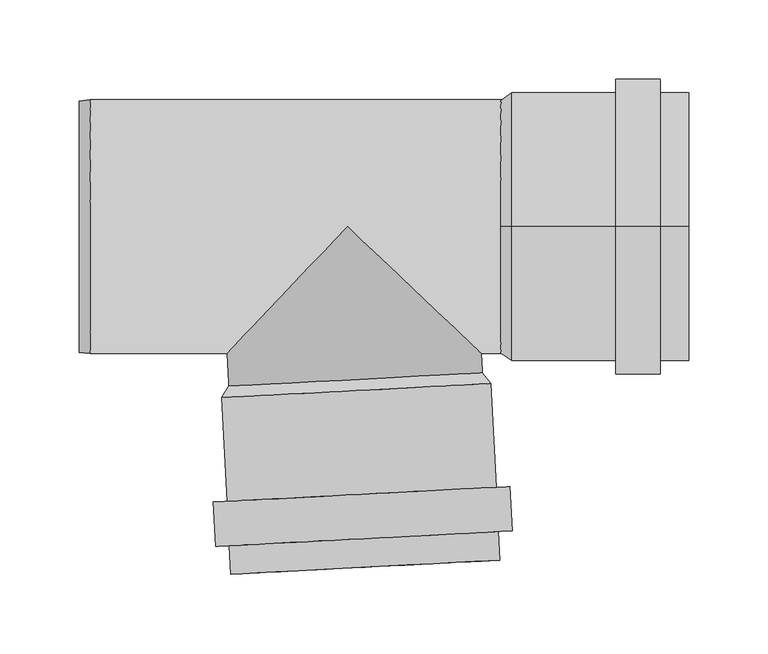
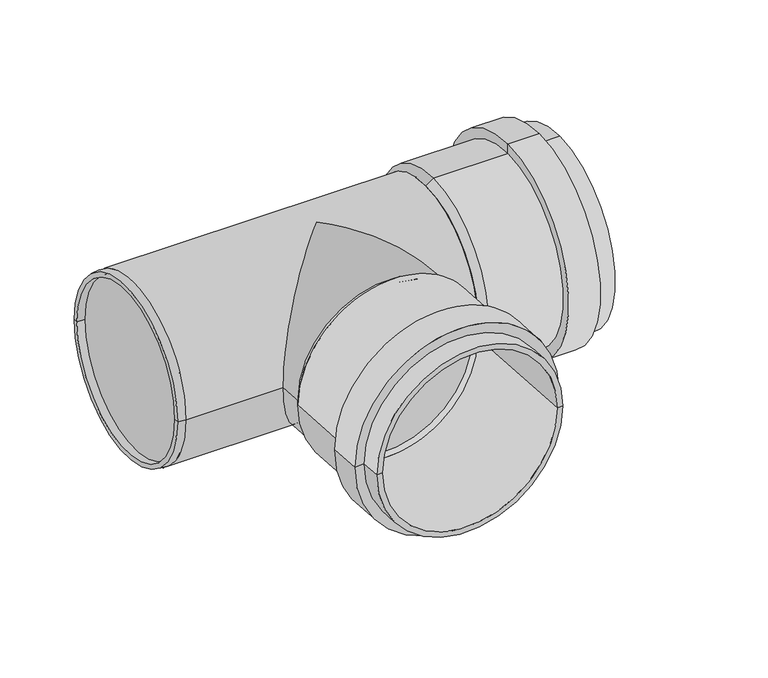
"""IFC4 building model written with IfcOpenShell, lengths in millimetres: pipe fitting geometry, OSMA_KG2000_PPKGEA : Odbočka 87°."""

from ifc_helpers import new_model, si_unit, frame, origin, place, context, project, spatial, polyline, circle_curve, ellipse_curve, source, transform, mapped, element, save
from ifc_brep_helpers import plane_surface, cylinder_surface, revolved_surface, advanced_brep


def pipe_fitting_8f992bbc(model_context):
    return source(origin(), model_context, "Body", "AdvancedBrep", [
        advanced_brep(
        [(85.3071343, -99.1712803, 1.6299565), (-74.4735913, -107.5450333, 1.6299565), (-68.6381322, -218.8922265, 1.6299565), (91.1425934, -210.5184735, 1.6299565), (93.6284241, -164.3250687, 1.6299565), (-75.9388709, -173.2117141, 1.6299565), (-79.366876, -107.8014795, 1.6299565), (90.200419, -98.9148342, 1.6299565), (102.2166381, -163.8749795, 1.6299565), (-84.5270849, -173.6618033, 1.6299565), (103.6820449, -191.8366064, 1.6299565), (-83.0616781, -201.6234303, 1.6299565), (95.0938309, -192.2866957, 1.6299565), (-74.4734641, -201.173341, 1.6299565), (96.0358781, -210.2620273, 1.6299565), (-73.5314169, -219.1486727, 1.6299565), (80.0474978, -92.4373198, 1.6299565), (-69.9466583, -100.2981804, 1.6299565), (84.9407826, -92.1808736, 1.6299565), (-74.839943, -100.5546266, 1.6299565)],
        [
            (0, 1, circle_curve(frame((5.4167715, -103.3581568, 1.6299565), z_axis=(-0.052335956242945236, 0.9986295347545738, 0.0), x_axis=(-0.9986295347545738, -0.052335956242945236, 0.0)), 80.0)),
            (1, 2),
            (2, 3, circle_curve(frame((11.2522306, -214.70535, 1.6299565), z_axis=(0.052335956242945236, -0.9986295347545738, 0.0), x_axis=(-0.9986295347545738, -0.052335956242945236, 0.0)), 80.0)),
            (3, 0),
            (1, 0, circle_curve(frame((5.4167715, -103.3581568, 1.6299565), z_axis=(-0.052335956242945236, 0.9986295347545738, 0.0), x_axis=(-0.9986295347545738, -0.052335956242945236, 0.0)), 80.0)),
            (3, 2, circle_curve(frame((11.2522306, -214.70535, 1.6299565), z_axis=(0.052335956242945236, -0.9986295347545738, 0.0), x_axis=(-0.9986295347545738, -0.052335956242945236, 0.0)), 80.0)),
            (4, 5, circle_curve(frame((8.8447766, -168.7683914, 1.6299565), z_axis=(-0.052335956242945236, 0.9986295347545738, 0.0), x_axis=(-0.9986295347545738, -0.052335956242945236, 0.0)), 84.9)),
            (5, 6),
            (6, 7, circle_curve(frame((5.4167715, -103.3581568, 1.6299565), z_axis=(0.052335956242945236, -0.9986295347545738, 0.0), x_axis=(-0.9986295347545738, -0.052335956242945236, 0.0)), 84.9)),
            (7, 4),
            (5, 4, circle_curve(frame((8.8447766, -168.7683914, 1.6299565), z_axis=(-0.052335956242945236, 0.9986295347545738, 0.0), x_axis=(-0.9986295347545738, -0.052335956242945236, 0.0)), 84.9)),
            (7, 6, circle_curve(frame((5.4167715, -103.3581568, 1.6299565), z_axis=(0.052335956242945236, -0.9986295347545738, 0.0), x_axis=(-0.9986295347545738, -0.052335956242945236, 0.0)), 84.9)),
            (8, 9, circle_curve(frame((8.8447766, -168.7683914, 1.6299565), z_axis=(-0.052335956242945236, 0.9986295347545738, 0.0), x_axis=(-0.9986295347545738, -0.052335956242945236, 0.0)), 93.5)),
            (9, 5),
            (4, 8),
            (9, 8, circle_curve(frame((8.8447766, -168.7683914, 1.6299565), z_axis=(-0.052335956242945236, 0.9986295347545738, 0.0), x_axis=(-0.9986295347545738, -0.052335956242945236, 0.0)), 93.5)),
            (10, 11, circle_curve(frame((10.3101834, -196.7300183, 1.6299565), z_axis=(-0.052335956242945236, 0.9986295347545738, 0.0), x_axis=(-0.9986295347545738, -0.052335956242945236, 0.0)), 93.5)),
            (11, 9),
            (8, 10),
            (11, 10, circle_curve(frame((10.3101834, -196.7300183, 1.6299565), z_axis=(-0.052335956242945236, 0.9986295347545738, 0.0), x_axis=(-0.9986295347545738, -0.052335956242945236, 0.0)), 93.5)),
            (12, 13, circle_curve(frame((10.3101834, -196.7300183, 1.6299565), z_axis=(-0.052335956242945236, 0.9986295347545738, 0.0), x_axis=(-0.9986295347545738, -0.052335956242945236, 0.0)), 84.9)),
            (13, 11),
            (10, 12),
            (13, 12, circle_curve(frame((10.3101834, -196.7300183, 1.6299565), z_axis=(-0.052335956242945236, 0.9986295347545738, 0.0), x_axis=(-0.9986295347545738, -0.052335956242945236, 0.0)), 84.9)),
            (14, 15, circle_curve(frame((11.2522306, -214.70535, 1.6299565), z_axis=(-0.052335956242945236, 0.9986295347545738, 0.0), x_axis=(-0.9986295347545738, -0.052335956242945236, 0.0)), 84.9)),
            (15, 13),
            (12, 14),
            (15, 14, circle_curve(frame((11.2522306, -214.70535, 1.6299565), z_axis=(-0.052335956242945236, 0.9986295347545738, 0.0), x_axis=(-0.9986295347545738, -0.052335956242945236, 0.0)), 84.9)),
            (2, 15),
            (14, 3),
            (16, 17, circle_curve(frame((5.0504198, -96.3677501, 1.6299565), z_axis=(-0.052335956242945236, 0.9986295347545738, 0.0), x_axis=(-0.9986295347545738, -0.052335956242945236, 0.0)), 75.1)),
            (17, 1),
            (0, 16),
            (17, 16, circle_curve(frame((5.0504198, -96.3677501, 1.6299565), z_axis=(-0.052335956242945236, 0.9986295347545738, 0.0), x_axis=(-0.9986295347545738, -0.052335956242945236, 0.0)), 75.1)),
            (18, 19, circle_curve(frame((5.0504198, -96.3677501, 1.6299565), z_axis=(-0.052335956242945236, 0.9986295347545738, 0.0), x_axis=(-0.9986295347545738, -0.052335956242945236, 0.0)), 80.0)),
            (19, 17),
            (16, 18),
            (19, 18, circle_curve(frame((5.0504198, -96.3677501, 1.6299565), z_axis=(-0.052335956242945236, 0.9986295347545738, 0.0), x_axis=(-0.9986295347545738, -0.052335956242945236, 0.0)), 80.0)),
            (6, 19),
            (18, 7),
        ],
        [
            revolved_surface(polyline([(-68.63813213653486, -218.89222649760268, 1.6299565), (-74.47359126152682, -107.54503329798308, 1.6299565)]), (150.9617166, -2880.5211481, 1.6299565), (0.052335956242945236, -0.9986295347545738, 0.0)),
            cylinder_surface(frame((150.9617166, -2880.5211481, 1.6299565), z_axis=(0.052335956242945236, -0.9986295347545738, 0.0), x_axis=(-0.9986295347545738, -0.052335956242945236, 0.0)), 84.9),
            plane_surface(frame((8.8447766, -168.7683914, 1.6299565), z_axis=(-0.052335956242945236, 0.9986295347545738, 0.0), x_axis=(-0.9986295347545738, -0.052335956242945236, 0.0))),
            cylinder_surface(frame((150.9617166, -2880.5211481, 1.6299565), z_axis=(0.052335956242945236, -0.9986295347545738, 0.0), x_axis=(-0.9986295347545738, -0.052335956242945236, 0.0)), 93.5),
            plane_surface(frame((10.3101834, -196.7300183, 1.6299565), z_axis=(0.052335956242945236, -0.9986295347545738, 0.0), x_axis=(-0.9986295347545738, -0.052335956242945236, 0.0))),
            plane_surface(frame((11.2522306, -214.70535, 1.6299565), z_axis=(0.052335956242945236, -0.9986295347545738, 0.0), x_axis=(-0.9986295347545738, -0.052335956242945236, 0.0))),
            revolved_surface(polyline([(-74.4735913, -107.5450333, 1.6299565), (-69.9466583, -100.2981804, 1.6299565)]), (150.9617166, -2880.5211481, 1.6299565), (0.052335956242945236, -0.9986295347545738, 0.0)),
            plane_surface(frame((5.0504198, -96.3677501, 1.6299565), z_axis=(-0.052335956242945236, 0.9986295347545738, 0.0), x_axis=(-0.9986295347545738, -0.052335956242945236, 0.0))),
            revolved_surface(polyline([(-74.839943, -100.5546266, 1.6299565), (-79.366876, -107.8014795, 1.6299565)]), (150.9617166, -2880.5211481, 1.6299565), (0.052335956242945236, -0.9986295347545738, 0.0)),
        ],
        [
            (0, [[1, 2, 3, 4]]),
            (0, [[5, -4, 6, -2]]),
            (1, [[7, 8, 9, 10]]),
            (1, [[11, -10, 12, -8]]),
            (2, [[13, 14, -7, 15]]),
            (2, [[16, -15, -11, -14]]),
            (3, [[17, 18, -13, 19]]),
            (3, [[20, -19, -16, -18]]),
            (4, [[21, 22, -17, 23]]),
            (4, [[24, -23, -20, -22]]),
            (1, [[25, 26, -21, 27]]),
            (1, [[28, -27, -24, -26]]),
            (5, [[-3, 29, -25, 30]]),
            (5, [[-6, -30, -28, -29]]),
            (6, [[31, 32, -1, 33]]),
            (6, [[34, -33, -5, -32]]),
            (7, [[35, 36, -31, 37]]),
            (7, [[38, -37, -34, -36]]),
            (8, [[-9, 39, -35, 40]]),
            (8, [[-12, -40, -38, -39]]),
        ],
    ),
        advanced_brep(
        [(103.5, 0.0, -80.0), (103.5, 0.0, 80.0), (215.0, 0.0, 80.0), (215.0, 0.0, -80.0), (169.0, 0.0, -84.9), (169.0, 0.0, 84.9), (103.5, 0.0, 84.9), (103.5, 0.0, -84.9), (169.0, 0.0, -93.5), (169.0, 0.0, 93.5), (197.0, 0.0, -93.5), (197.0, 0.0, 93.5), (197.0, 0.0, -84.9), (197.0, 0.0, 84.9), (215.0, 0.0, -84.9), (215.0, 0.0, 84.9), (96.5, 0.0, -75.1), (96.5, 0.0, 75.1), (96.5, 0.0, -80.0), (96.5, 0.0, 80.0)],
        [
            (0, 1, circle_curve(frame((103.5, 0.0, 0.0), z_axis=(-1.0, 0.0, 0.0), x_axis=(0.0, 0.0, 1.0)), 80.0)),
            (1, 2),
            (2, 3, circle_curve(frame((215.0, 0.0, 0.0), z_axis=(1.0, 0.0, 0.0), x_axis=(0.0, 0.0, 1.0)), 80.0)),
            (3, 0),
            (1, 0, circle_curve(frame((103.5, 0.0, 0.0), z_axis=(-1.0, 0.0, 0.0), x_axis=(0.0, 0.0, 1.0)), 80.0)),
            (3, 2, circle_curve(frame((215.0, 0.0, 0.0), z_axis=(1.0, 0.0, 0.0), x_axis=(0.0, 0.0, 1.0)), 80.0)),
            (4, 5, circle_curve(frame((169.0, 0.0, 0.0), z_axis=(-1.0, 0.0, 0.0), x_axis=(0.0, 0.0, 1.0)), 84.9)),
            (5, 6),
            (6, 7, circle_curve(frame((103.5, 0.0, 0.0), z_axis=(1.0, 0.0, 0.0), x_axis=(0.0, 0.0, 1.0)), 84.9)),
            (7, 4),
            (5, 4, circle_curve(frame((169.0, 0.0, 0.0), z_axis=(-1.0, 0.0, 0.0), x_axis=(0.0, 0.0, 1.0)), 84.9)),
            (7, 6, circle_curve(frame((103.5, 0.0, 0.0), z_axis=(1.0, 0.0, 0.0), x_axis=(0.0, 0.0, 1.0)), 84.9)),
            (8, 9, circle_curve(frame((169.0, 0.0, 0.0), z_axis=(-1.0, 0.0, 0.0), x_axis=(0.0, 0.0, 1.0)), 93.5)),
            (9, 5),
            (4, 8),
            (9, 8, circle_curve(frame((169.0, 0.0, 0.0), z_axis=(-1.0, 0.0, 0.0), x_axis=(0.0, 0.0, 1.0)), 93.5)),
            (10, 11, circle_curve(frame((197.0, 0.0, 0.0), z_axis=(-1.0, 0.0, 0.0), x_axis=(0.0, 0.0, 1.0)), 93.5)),
            (11, 9),
            (8, 10),
            (11, 10, circle_curve(frame((197.0, 0.0, 0.0), z_axis=(-1.0, 0.0, 0.0), x_axis=(0.0, 0.0, 1.0)), 93.5)),
            (12, 13, circle_curve(frame((197.0, 0.0, 0.0), z_axis=(-1.0, 0.0, 0.0), x_axis=(0.0, 0.0, 1.0)), 84.9)),
            (13, 11),
            (10, 12),
            (13, 12, circle_curve(frame((197.0, 0.0, 0.0), z_axis=(-1.0, 0.0, 0.0), x_axis=(0.0, 0.0, 1.0)), 84.9)),
            (14, 15, circle_curve(frame((215.0, 0.0, 0.0), z_axis=(-1.0, 0.0, 0.0), x_axis=(0.0, 0.0, 1.0)), 84.9)),
            (15, 13),
            (12, 14),
            (15, 14, circle_curve(frame((215.0, 0.0, 0.0), z_axis=(-1.0, 0.0, 0.0), x_axis=(0.0, 0.0, 1.0)), 84.9)),
            (2, 15),
            (14, 3),
            (16, 17, circle_curve(frame((96.5, 0.0, 0.0), z_axis=(-1.0, 0.0, 0.0), x_axis=(0.0, 0.0, 1.0)), 75.1)),
            (17, 1),
            (0, 16),
            (17, 16, circle_curve(frame((96.5, 0.0, 0.0), z_axis=(-1.0, 0.0, 0.0), x_axis=(0.0, 0.0, 1.0)), 75.1)),
            (18, 19, circle_curve(frame((96.5, 0.0, 0.0), z_axis=(-1.0, 0.0, 0.0), x_axis=(0.0, 0.0, 1.0)), 80.0)),
            (19, 17),
            (16, 18),
            (19, 18, circle_curve(frame((96.5, 0.0, 0.0), z_axis=(-1.0, 0.0, 0.0), x_axis=(0.0, 0.0, 1.0)), 80.0)),
            (6, 19),
            (18, 7),
        ],
        [
            revolved_surface(polyline([(215.0, 0.0, 80.0), (103.5, 0.0, 80.0)]), (2884.4742198, 0.0, 0.0), (1.0, 0.0, 0.0)),
            cylinder_surface(frame((2884.4742198, 0.0, 0.0), z_axis=(1.0, 0.0, 0.0), x_axis=(0.0, 0.0, 1.0)), 84.9),
            plane_surface(frame((169.0, 0.0, 0.0), z_axis=(-1.0, 0.0, 0.0), x_axis=(0.0, 0.0, 1.0))),
            cylinder_surface(frame((2884.4742198, 0.0, 0.0), z_axis=(1.0, 0.0, 0.0), x_axis=(0.0, 0.0, 1.0)), 93.5),
            plane_surface(frame((197.0, 0.0, 0.0), z_axis=(1.0, 0.0, 0.0), x_axis=(0.0, 0.0, 1.0))),
            plane_surface(frame((215.0, 0.0, 0.0), z_axis=(1.0, 0.0, 0.0), x_axis=(0.0, 0.0, 1.0))),
            revolved_surface(polyline([(103.5, 0.0, 80.0), (96.5, 0.0, 75.1)]), (2884.4742198, 0.0, 0.0), (1.0, 0.0, 0.0)),
            plane_surface(frame((96.5, 0.0, 0.0), z_axis=(-1.0, 0.0, 0.0), x_axis=(0.0, 0.0, 1.0))),
            revolved_surface(polyline([(96.5, 0.0, 80.0), (103.5, 0.0, 84.9)]), (2884.4742198, 0.0, 0.0), (1.0, 0.0, 0.0)),
        ],
        [
            (0, [[1, 2, 3, 4]]),
            (0, [[5, -4, 6, -2]]),
            (1, [[7, 8, 9, 10]]),
            (1, [[11, -10, 12, -8]]),
            (2, [[13, 14, -7, 15]]),
            (2, [[16, -15, -11, -14]]),
            (3, [[17, 18, -13, 19]]),
            (3, [[20, -19, -16, -18]]),
            (4, [[21, 22, -17, 23]]),
            (4, [[24, -23, -20, -22]]),
            (1, [[25, 26, -21, 27]]),
            (1, [[28, -27, -24, -26]]),
            (5, [[-3, 29, -25, 30]]),
            (5, [[-6, -30, -28, -29]]),
            (6, [[31, 32, -1, 33]]),
            (6, [[34, -33, -5, -32]]),
            (7, [[35, 36, -31, 37]]),
            (7, [[38, -37, -34, -36]]),
            (8, [[-9, 39, -35, 40]]),
            (8, [[-12, -40, -38, -39]]),
        ],
    ),
        advanced_brep(
        [(-74.6567672, -104.04983, 0.0), (85.1239584, -95.676077, 0.0), (84.30241, -80.0, 0.0), (0.0, 0.0, 80.0), (-75.9171653, -80.0, 0.0), (0.0, 0.0, -80.0), (-169.0, -75.1, 0.0), (-169.0, 75.1, 0.0), (-169.0, 79.209508, 0.0), (-169.0, -79.209508, 0.0), (-162.0, -75.1, 0.0), (-162.0, 75.1, 0.0), (-162.0, 80.0, 0.0), (-162.0, -80.0, 0.0), (100.0, 80.0, 0.0), (100.0, -80.0, 0.0)],
        [
            (0, 1, circle_curve(frame((5.2335956, -99.8629535, 0.0), z_axis=(0.052335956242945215, -0.9986295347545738, 0.0), x_axis=(0.9986295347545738, 0.052335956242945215, 0.0)), 80.0)),
            (1, 0, circle_curve(frame((5.2335956, -99.8629535, 0.0), z_axis=(0.052335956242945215, -0.9986295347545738, 0.0), x_axis=(0.9986295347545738, 0.052335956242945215, 0.0)), 80.0)),
            (1, 2),
            (2, 3, ellipse_curve(frame((0.0, 0.0, 0.0), z_axis=(-0.6883545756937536, -0.7253743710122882, 0.0), x_axis=(-0.7253743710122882, 0.6883545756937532, 0.0)), 116.2191737, 80.0)),
            (3, 4, ellipse_curve(frame((0.0, 0.0, 0.0), z_axis=(0.7253743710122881, -0.6883545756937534, 0.0), x_axis=(0.6883545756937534, 0.7253743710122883, 0.0)), 110.2878778, 80.0)),
            (4, 0),
            (4, 5, ellipse_curve(frame((0.0, 0.0, 0.0), z_axis=(0.7253743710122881, -0.6883545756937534, 0.0), x_axis=(0.6883545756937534, 0.7253743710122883, 0.0)), 110.2878778, 80.0)),
            (5, 2, ellipse_curve(frame((0.0, 0.0, 0.0), z_axis=(-0.6883545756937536, -0.7253743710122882, 0.0), x_axis=(-0.7253743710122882, 0.6883545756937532, 0.0)), 116.2191737, 80.0)),
            (6, 7, circle_curve(frame((-169.0, 0.0, 0.0), z_axis=(1.0, 0.0, 0.0), x_axis=(0.0, 1.0, 0.0)), 75.1)),
            (7, 8),
            (8, 9, circle_curve(frame((-169.0, 0.0, 0.0), z_axis=(-1.0, 0.0, 0.0), x_axis=(0.0, 1.0, 0.0)), 79.209508)),
            (9, 6),
            (7, 6, circle_curve(frame((-169.0, 0.0, 0.0), z_axis=(1.0, 0.0, 0.0), x_axis=(0.0, 1.0, 0.0)), 75.1)),
            (9, 8, circle_curve(frame((-169.0, 0.0, 0.0), z_axis=(-1.0, 0.0, 0.0), x_axis=(0.0, 1.0, 0.0)), 79.209508)),
            (6, 10),
            (10, 11, circle_curve(frame((-162.0, 0.0, 0.0), z_axis=(1.0, 0.0, 0.0), x_axis=(0.0, 1.0, 0.0)), 75.1)),
            (11, 7),
            (11, 10, circle_curve(frame((-162.0, 0.0, 0.0), z_axis=(1.0, 0.0, 0.0), x_axis=(0.0, 1.0, 0.0)), 75.1)),
            (8, 12),
            (12, 13, circle_curve(frame((-162.0, 0.0, 0.0), z_axis=(-1.0, 0.0, 0.0), x_axis=(0.0, 1.0, 0.0)), 80.0)),
            (13, 9),
            (13, 12, circle_curve(frame((-162.0, 0.0, 0.0), z_axis=(-1.0, 0.0, 0.0), x_axis=(0.0, 1.0, 0.0)), 80.0)),
            (14, 15, circle_curve(frame((100.0, 0.0, 0.0), z_axis=(1.0, 0.0, 0.0), x_axis=(0.0, -1.0, 0.0)), 80.0)),
            (15, 14, circle_curve(frame((100.0, 0.0, 0.0), z_axis=(1.0, 0.0, 0.0), x_axis=(0.0, -1.0, 0.0)), 80.0)),
            (14, 12),
            (13, 4),
            (2, 15),
        ],
        [
            plane_surface(frame((5.2335956, -99.8629535, 0.0), z_axis=(0.052335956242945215, -0.9986295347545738, 0.0), x_axis=(0.0, 0.0, 1.0))),
            cylinder_surface(frame((0.0, 0.0, 0.0), z_axis=(-0.052335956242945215, 0.9986295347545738, 0.0), x_axis=(0.9986295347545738, 0.052335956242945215, 0.0)), 80.0),
            plane_surface(frame((-169.0, 0.0, 0.0), z_axis=(-1.0, 0.0, 0.0), x_axis=(0.0, 1.0, 0.0))),
            revolved_surface(polyline([(-169.0, 75.1, 0.0), (-162.0, 75.1, 0.0)]), (2009.0, 0.0, 0.0), (-1.0, 0.0, 0.0)),
            revolved_surface(polyline([(-162.0, 80.0, 0.0), (-169.0, 79.209508, 0.0)]), (2009.0, 0.0, 0.0), (-1.0, 0.0, 0.0)),
            plane_surface(frame((100.0, 0.0, 0.0), z_axis=(1.0, 0.0, 0.0), x_axis=(0.0, 0.0, 1.0))),
            plane_surface(frame((-162.0, 0.0, 0.0), z_axis=(-1.0, 0.0, 0.0), x_axis=(0.0, 0.0, 1.0))),
            cylinder_surface(frame((100.0, 0.0, 0.0), z_axis=(1.0, 0.0, 0.0), x_axis=(0.0, -1.0, 0.0)), 80.0),
        ],
        [
            (0, [[1, 2]]),
            (1, [[-2, 3, 4, 5, 6]]),
            (1, [[-1, -6, 7, 8, -3]]),
            (2, [[9, 10, 11, 12]]),
            (2, [[-10, 13, -12, 14]]),
            (3, [[-9, 15, 16, 17]]),
            (3, [[-13, -17, 18, -15]]),
            (4, [[-11, 19, 20, 21]]),
            (4, [[-14, -21, 22, -19]]),
            (5, [[23, 24]]),
            (6, [[-16, -18]]),
            (7, [[-23, 25, -22, 26, -5, -4, 27]]),
            (7, [[-24, -27, -8, -7, -26, -20, -25]]),
        ],
    ),
    ])


if __name__ == "__main__":
    model = new_model("IFC4")
    model_context = context("Model", 3, world=origin())
    ifc_project = project(units=[si_unit("LENGTHUNIT", "METRE", prefix="MILLI")], contexts=[model_context])
    site = spatial("IfcSite", under=ifc_project)
    building = spatial("IfcBuilding", under=site)
    placement = place(None, origin())
    pipe_fitting_shape = pipe_fitting_8f992bbc(model_context)
    element("IfcPipeFitting", 1, ObjectType="OSMA_KG2000_PPKGEA : Odbočka 87°", at=placement, inside=building, context=model_context, shape_type="MappedRepresentation", body=[
        mapped(pipe_fitting_shape, transform((0.0, 0.0, 0.0), x_axis=(1.0, 0.0, 0.0), y_axis=(0.0, 1.0, 0.0), z_axis=(0.0, 0.0, 1.0))),
    ])
    save(model, "model.ifc")
